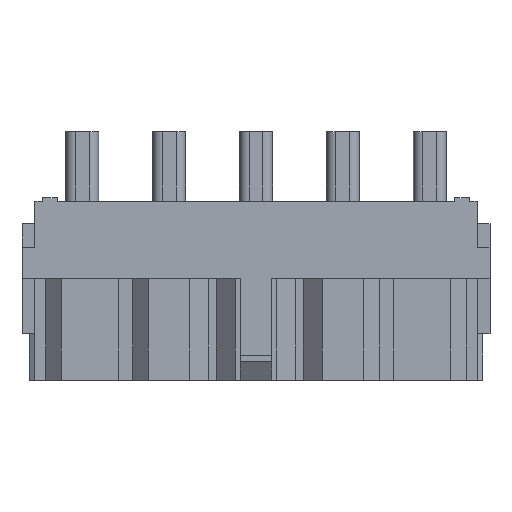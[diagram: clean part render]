
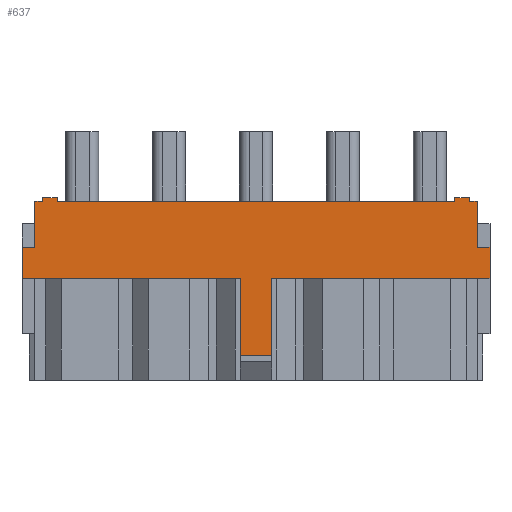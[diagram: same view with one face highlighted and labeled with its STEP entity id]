
A CAD part, top view. The second image highlights one B-rep face of the part: STEP entity #637.
In plain terms, the highlighted planar face has unit normal (0, 0, 1).
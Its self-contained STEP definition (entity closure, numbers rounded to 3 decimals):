
#241=FACE_OUTER_BOUND('',#1413,.T.);
#637=ADVANCED_FACE('',(#241),#1014,.T.);
#1014=PLANE('',#8078);
#1413=EDGE_LOOP('',(#2156,#2157,#2158,#2159,#2160,#2161,#2162,#2163,#2164,
#2165,#2166,#2167,#2168,#2169,#2170,#2171,#2172,#2173,#2174,#2175));
#2156=ORIENTED_EDGE('',*,*,#5117,.F.);
#2157=ORIENTED_EDGE('',*,*,#5118,.T.);
#2158=ORIENTED_EDGE('',*,*,#5119,.F.);
#2159=ORIENTED_EDGE('',*,*,#5120,.F.);
#2160=ORIENTED_EDGE('',*,*,#5121,.F.);
#2161=ORIENTED_EDGE('',*,*,#5122,.F.);
#2162=ORIENTED_EDGE('',*,*,#5123,.T.);
#2163=ORIENTED_EDGE('',*,*,#5100,.F.);
#2164=ORIENTED_EDGE('',*,*,#4833,.T.);
#2165=ORIENTED_EDGE('',*,*,#5124,.F.);
#2166=ORIENTED_EDGE('',*,*,#5125,.F.);
#2167=ORIENTED_EDGE('',*,*,#5126,.T.);
#2168=ORIENTED_EDGE('',*,*,#4829,.T.);
#2169=ORIENTED_EDGE('',*,*,#5127,.F.);
#2170=ORIENTED_EDGE('',*,*,#5128,.F.);
#2171=ORIENTED_EDGE('',*,*,#5129,.T.);
#2172=ORIENTED_EDGE('',*,*,#4825,.T.);
#2173=ORIENTED_EDGE('',*,*,#5075,.T.);
#2174=ORIENTED_EDGE('',*,*,#5130,.T.);
#2175=ORIENTED_EDGE('',*,*,#5131,.T.);
#4064=VERTEX_POINT('',#10607);
#4065=VERTEX_POINT('',#10609);
#4068=VERTEX_POINT('',#10615);
#4069=VERTEX_POINT('',#10617);
#4072=VERTEX_POINT('',#10623);
#4073=VERTEX_POINT('',#10625);
#4273=VERTEX_POINT('',#11112);
#4297=VERTEX_POINT('',#11165);
#4310=VERTEX_POINT('',#11198);
#4311=VERTEX_POINT('',#11199);
#4312=VERTEX_POINT('',#11201);
#4313=VERTEX_POINT('',#11203);
#4314=VERTEX_POINT('',#11205);
#4315=VERTEX_POINT('',#11207);
#4316=VERTEX_POINT('',#11209);
#4317=VERTEX_POINT('',#11212);
#4318=VERTEX_POINT('',#11214);
#4319=VERTEX_POINT('',#11217);
#4320=VERTEX_POINT('',#11219);
#4321=VERTEX_POINT('',#11222);
#4825=EDGE_CURVE('',#4065,#4064,#5949,.T.);
#4829=EDGE_CURVE('',#4069,#4068,#5953,.T.);
#4833=EDGE_CURVE('',#4073,#4072,#5957,.T.);
#5075=EDGE_CURVE('',#4064,#4273,#6157,.T.);
#5100=EDGE_CURVE('',#4073,#4297,#6182,.T.);
#5117=EDGE_CURVE('',#4310,#4311,#6199,.T.);
#5118=EDGE_CURVE('',#4310,#4312,#6200,.T.);
#5119=EDGE_CURVE('',#4313,#4312,#6201,.T.);
#5120=EDGE_CURVE('',#4314,#4313,#6202,.T.);
#5121=EDGE_CURVE('',#4315,#4314,#6203,.T.);
#5122=EDGE_CURVE('',#4316,#4315,#6204,.T.);
#5123=EDGE_CURVE('',#4316,#4297,#6205,.T.);
#5124=EDGE_CURVE('',#4317,#4072,#6206,.T.);
#5125=EDGE_CURVE('',#4318,#4317,#6207,.T.);
#5126=EDGE_CURVE('',#4318,#4069,#6208,.T.);
#5127=EDGE_CURVE('',#4319,#4068,#6209,.T.);
#5128=EDGE_CURVE('',#4320,#4319,#6210,.T.);
#5129=EDGE_CURVE('',#4320,#4065,#6211,.T.);
#5130=EDGE_CURVE('',#4273,#4321,#6212,.T.);
#5131=EDGE_CURVE('',#4321,#4311,#6213,.T.);
#5949=LINE('',#10608,#6981);
#5953=LINE('',#10616,#6985);
#5957=LINE('',#10624,#6989);
#6157=LINE('',#11113,#7189);
#6182=LINE('',#11164,#7214);
#6199=LINE('',#11197,#7231);
#6200=LINE('',#11200,#7232);
#6201=LINE('',#11202,#7233);
#6202=LINE('',#11204,#7234);
#6203=LINE('',#11206,#7235);
#6204=LINE('',#11208,#7236);
#6205=LINE('',#11210,#7237);
#6206=LINE('',#11211,#7238);
#6207=LINE('',#11213,#7239);
#6208=LINE('',#11215,#7240);
#6209=LINE('',#11216,#7241);
#6210=LINE('',#11218,#7242);
#6211=LINE('',#11220,#7243);
#6212=LINE('',#11221,#7244);
#6213=LINE('',#11223,#7245);
#6981=VECTOR('',#8551,1.);
#6985=VECTOR('',#8555,1.);
#6989=VECTOR('',#8559,1.);
#7189=VECTOR('',#8935,1.);
#7214=VECTOR('',#8966,1.);
#7231=VECTOR('',#8989,1.);
#7232=VECTOR('',#8990,1.);
#7233=VECTOR('',#8991,1.);
#7234=VECTOR('',#8992,1.);
#7235=VECTOR('',#8993,1.);
#7236=VECTOR('',#8994,1.);
#7237=VECTOR('',#8995,1.);
#7238=VECTOR('',#8996,1.);
#7239=VECTOR('',#8997,1.);
#7240=VECTOR('',#8998,1.);
#7241=VECTOR('',#8999,1.);
#7242=VECTOR('',#9000,1.);
#7243=VECTOR('',#9001,1.);
#7244=VECTOR('',#9002,1.);
#7245=VECTOR('',#9003,1.);
#8078=AXIS2_PLACEMENT_3D('',#11224,#9004,#9005);
#8551=DIRECTION('',(-1.,0.,0.));
#8555=DIRECTION('',(-1.,0.,0.));
#8559=DIRECTION('',(-1.,0.,0.));
#8935=DIRECTION('',(0.,-1.,0.));
#8966=DIRECTION('',(0.,-1.,0.));
#8989=DIRECTION('',(-1.,0.,0.));
#8990=DIRECTION('',(0.,-1.,0.));
#8991=DIRECTION('',(-1.,0.,0.));
#8992=DIRECTION('',(0.,-1.,0.));
#8993=DIRECTION('',(-1.,0.,0.));
#8994=DIRECTION('',(0.,-1.,0.));
#8995=DIRECTION('',(-1.,0.,0.));
#8996=DIRECTION('',(0.,-1.,0.));
#8997=DIRECTION('',(1.,0.,0.));
#8998=DIRECTION('',(0.,-1.,0.));
#8999=DIRECTION('',(0.,-1.,0.));
#9000=DIRECTION('',(1.,0.,0.));
#9001=DIRECTION('',(0.,-1.,0.));
#9002=DIRECTION('',(-1.,0.,0.));
#9003=DIRECTION('',(0.,-1.,0.));
#9004=DIRECTION('',(0.,0.,1.));
#9005=DIRECTION('',(1.,0.,0.));
#10607=CARTESIAN_POINT('',(-25.45,20.6,9.3));
#10608=CARTESIAN_POINT('',(26.91,20.6,9.3));
#10609=CARTESIAN_POINT('',(-24.55,20.6,9.3));
#10615=CARTESIAN_POINT('',(-22.85,20.6,9.3));
#10616=CARTESIAN_POINT('',(26.91,20.6,9.3));
#10617=CARTESIAN_POINT('',(22.85,20.6,9.3));
#10623=CARTESIAN_POINT('',(24.55,20.6,9.3));
#10624=CARTESIAN_POINT('',(26.91,20.6,9.3));
#10625=CARTESIAN_POINT('',(25.45,20.6,9.3));
#11112=CARTESIAN_POINT('',(-25.45,15.3,9.3));
#11113=CARTESIAN_POINT('',(-25.45,20.6,9.3));
#11164=CARTESIAN_POINT('',(25.45,20.6,9.3));
#11165=CARTESIAN_POINT('',(25.45,15.3,9.3));
#11197=CARTESIAN_POINT('',(-26.91,11.7,9.3));
#11198=CARTESIAN_POINT('',(-1.8,11.7,9.3));
#11199=CARTESIAN_POINT('',(-26.91,11.7,9.3));
#11200=CARTESIAN_POINT('',(-1.8,115.83,9.3));
#11201=CARTESIAN_POINT('',(-1.8,2.8,9.3));
#11202=CARTESIAN_POINT('',(1.8,2.8,9.3));
#11203=CARTESIAN_POINT('',(1.8,2.8,9.3));
#11204=CARTESIAN_POINT('',(1.8,115.83,9.3));
#11205=CARTESIAN_POINT('',(1.8,11.7,9.3));
#11206=CARTESIAN_POINT('',(26.91,11.7,9.3));
#11207=CARTESIAN_POINT('',(26.91,11.7,9.3));
#11208=CARTESIAN_POINT('',(26.91,20.6,9.3));
#11209=CARTESIAN_POINT('',(26.91,15.3,9.3));
#11210=CARTESIAN_POINT('',(26.91,15.3,9.3));
#11211=CARTESIAN_POINT('',(24.55,21.,9.3));
#11212=CARTESIAN_POINT('',(24.55,21.,9.3));
#11213=CARTESIAN_POINT('',(22.85,21.,9.3));
#11214=CARTESIAN_POINT('',(22.85,21.,9.3));
#11215=CARTESIAN_POINT('',(22.85,21.,9.3));
#11216=CARTESIAN_POINT('',(-22.85,21.,9.3));
#11217=CARTESIAN_POINT('',(-22.85,21.,9.3));
#11218=CARTESIAN_POINT('',(-24.55,21.,9.3));
#11219=CARTESIAN_POINT('',(-24.55,21.,9.3));
#11220=CARTESIAN_POINT('',(-24.55,21.,9.3));
#11221=CARTESIAN_POINT('',(-26.91,15.3,9.3));
#11222=CARTESIAN_POINT('',(-26.91,15.3,9.3));
#11223=CARTESIAN_POINT('',(-26.91,20.6,9.3));
#11224=CARTESIAN_POINT('',(26.91,20.6,9.3));
